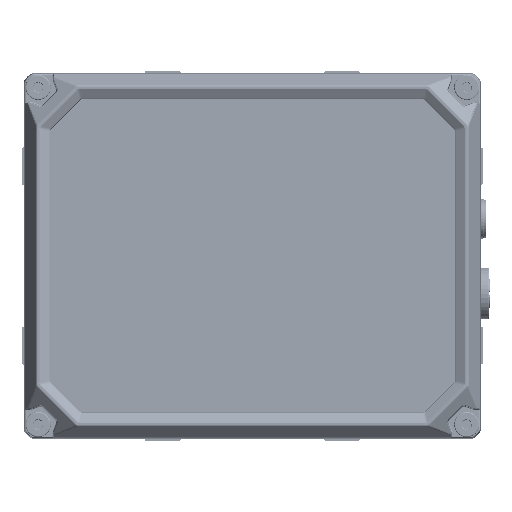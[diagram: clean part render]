
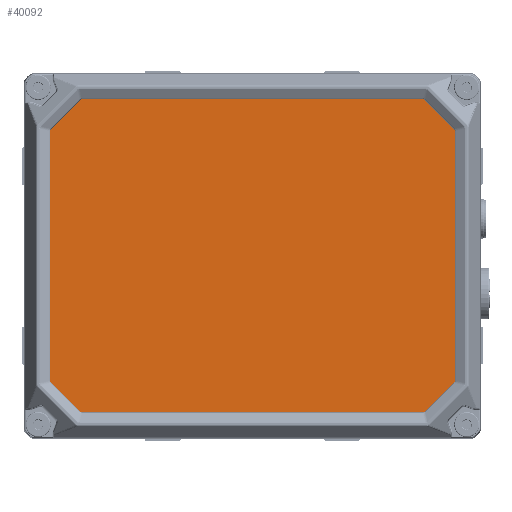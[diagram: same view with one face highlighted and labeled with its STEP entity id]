
A CAD part, top view. The second image highlights one B-rep face of the part: STEP entity #40092.
In plain terms, the highlighted planar face has unit normal (0, 0, 1).
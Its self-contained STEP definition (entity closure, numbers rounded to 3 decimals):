
#34364=FACE_OUTER_BOUND('',#50472,.T.);
#40092=ADVANCED_FACE('',(#34364),#44580,.F.);
#44580=PLANE('',#118722);
#45687=ELLIPSE('',#118714,1.001,1.);
#45688=ELLIPSE('',#118715,1.001,1.);
#45689=ELLIPSE('',#118716,1.001,1.);
#45690=ELLIPSE('',#118717,1.001,1.);
#45691=ELLIPSE('',#118718,1.001,1.);
#45692=ELLIPSE('',#118719,1.001,1.);
#45693=ELLIPSE('',#118720,1.001,1.);
#45694=ELLIPSE('',#118721,1.001,1.);
#50472=EDGE_LOOP('',(#67845,#67846,#67847,#67848,#67849,#67850,#67851,#67852,
#67853,#67854,#67855,#67856,#67857,#67858,#67859,#67860));
#67845=ORIENTED_EDGE('',*,*,#96909,.T.);
#67846=ORIENTED_EDGE('',*,*,#96910,.T.);
#67847=ORIENTED_EDGE('',*,*,#96911,.T.);
#67848=ORIENTED_EDGE('',*,*,#96912,.T.);
#67849=ORIENTED_EDGE('',*,*,#96913,.T.);
#67850=ORIENTED_EDGE('',*,*,#96914,.T.);
#67851=ORIENTED_EDGE('',*,*,#96915,.T.);
#67852=ORIENTED_EDGE('',*,*,#96916,.T.);
#67853=ORIENTED_EDGE('',*,*,#96917,.T.);
#67854=ORIENTED_EDGE('',*,*,#96918,.T.);
#67855=ORIENTED_EDGE('',*,*,#96919,.T.);
#67856=ORIENTED_EDGE('',*,*,#96920,.T.);
#67857=ORIENTED_EDGE('',*,*,#96921,.T.);
#67858=ORIENTED_EDGE('',*,*,#96922,.T.);
#67859=ORIENTED_EDGE('',*,*,#96923,.T.);
#67860=ORIENTED_EDGE('',*,*,#96924,.T.);
#86853=VERTEX_POINT('',#184534);
#86854=VERTEX_POINT('',#184535);
#86855=VERTEX_POINT('',#184537);
#86856=VERTEX_POINT('',#184539);
#86857=VERTEX_POINT('',#184541);
#86858=VERTEX_POINT('',#184543);
#86859=VERTEX_POINT('',#184545);
#86860=VERTEX_POINT('',#184547);
#86861=VERTEX_POINT('',#184549);
#86862=VERTEX_POINT('',#184551);
#86863=VERTEX_POINT('',#184553);
#86864=VERTEX_POINT('',#184555);
#86865=VERTEX_POINT('',#184557);
#86866=VERTEX_POINT('',#184559);
#86867=VERTEX_POINT('',#184561);
#86868=VERTEX_POINT('',#184563);
#96909=EDGE_CURVE('',#86853,#86854,#107168,.T.);
#96910=EDGE_CURVE('',#86854,#86855,#45687,.T.);
#96911=EDGE_CURVE('',#86855,#86856,#107169,.T.);
#96912=EDGE_CURVE('',#86856,#86857,#45688,.T.);
#96913=EDGE_CURVE('',#86857,#86858,#107170,.T.);
#96914=EDGE_CURVE('',#86858,#86859,#45689,.T.);
#96915=EDGE_CURVE('',#86859,#86860,#107171,.T.);
#96916=EDGE_CURVE('',#86860,#86861,#45690,.T.);
#96917=EDGE_CURVE('',#86861,#86862,#107172,.T.);
#96918=EDGE_CURVE('',#86862,#86863,#45691,.T.);
#96919=EDGE_CURVE('',#86863,#86864,#107173,.T.);
#96920=EDGE_CURVE('',#86864,#86865,#45692,.T.);
#96921=EDGE_CURVE('',#86865,#86866,#107174,.T.);
#96922=EDGE_CURVE('',#86866,#86867,#45693,.T.);
#96923=EDGE_CURVE('',#86867,#86868,#107175,.T.);
#96924=EDGE_CURVE('',#86868,#86853,#45694,.T.);
#107168=LINE('',#184533,#112314);
#107169=LINE('',#184538,#112315);
#107170=LINE('',#184542,#112316);
#107171=LINE('',#184546,#112317);
#107172=LINE('',#184550,#112318);
#107173=LINE('',#184554,#112319);
#107174=LINE('',#184558,#112320);
#107175=LINE('',#184562,#112321);
#112314=VECTOR('',#134865,1.);
#112315=VECTOR('',#134868,1.);
#112316=VECTOR('',#134871,1.);
#112317=VECTOR('',#134874,1.);
#112318=VECTOR('',#134877,1.);
#112319=VECTOR('',#134880,1.);
#112320=VECTOR('',#134883,1.);
#112321=VECTOR('',#134886,1.);
#118714=AXIS2_PLACEMENT_3D('',#184536,#134866,#134867);
#118715=AXIS2_PLACEMENT_3D('',#184540,#134869,#134870);
#118716=AXIS2_PLACEMENT_3D('',#184544,#134872,#134873);
#118717=AXIS2_PLACEMENT_3D('',#184548,#134875,#134876);
#118718=AXIS2_PLACEMENT_3D('',#184552,#134878,#134879);
#118719=AXIS2_PLACEMENT_3D('',#184556,#134881,#134882);
#118720=AXIS2_PLACEMENT_3D('',#184560,#134884,#134885);
#118721=AXIS2_PLACEMENT_3D('',#184564,#134887,#134888);
#118722=AXIS2_PLACEMENT_3D('',#184565,#134889,#134890);
#134865=DIRECTION('',(-0.707,0.707,0.));
#134866=DIRECTION('',(0.,0.,1.));
#134867=DIRECTION('',(0.383,0.924,0.));
#134868=DIRECTION('',(-1.,0.,0.));
#134869=DIRECTION('',(0.,0.,1.));
#134870=DIRECTION('',(-0.383,0.924,0.));
#134871=DIRECTION('',(-0.707,-0.707,0.));
#134872=DIRECTION('',(0.,0.,1.));
#134873=DIRECTION('',(-0.924,0.383,0.));
#134874=DIRECTION('',(0.,-1.,0.));
#134875=DIRECTION('',(0.,0.,1.));
#134876=DIRECTION('',(-0.924,-0.383,0.));
#134877=DIRECTION('',(0.707,-0.707,0.));
#134878=DIRECTION('',(0.,0.,1.));
#134879=DIRECTION('',(-0.383,-0.924,0.));
#134880=DIRECTION('',(1.,0.,0.));
#134881=DIRECTION('',(0.,0.,1.));
#134882=DIRECTION('',(0.383,-0.924,0.));
#134883=DIRECTION('',(0.707,0.707,0.));
#134884=DIRECTION('',(0.,0.,1.));
#134885=DIRECTION('',(0.924,-0.383,0.));
#134886=DIRECTION('',(0.,1.,0.));
#134887=DIRECTION('',(0.,0.,1.));
#134888=DIRECTION('',(0.924,0.383,0.));
#134889=DIRECTION('',(0.,0.,-1.));
#134890=DIRECTION('',(0.,-1.,0.));
#184533=CARTESIAN_POINT('',(46.96,42.8,70.5));
#184534=CARTESIAN_POINT('',(55.007,34.753,70.5));
#184535=CARTESIAN_POINT('',(47.253,42.507,70.5));
#184536=CARTESIAN_POINT('',(46.546,41.799,70.5));
#184537=CARTESIAN_POINT('',(46.546,42.8,70.5));
#184538=CARTESIAN_POINT('',(-46.96,42.8,70.5));
#184539=CARTESIAN_POINT('',(-46.546,42.8,70.5));
#184540=CARTESIAN_POINT('',(-46.546,41.799,70.5));
#184541=CARTESIAN_POINT('',(-47.253,42.507,70.5));
#184542=CARTESIAN_POINT('',(-55.3,34.46,70.5));
#184543=CARTESIAN_POINT('',(-55.007,34.753,70.5));
#184544=CARTESIAN_POINT('',(-54.299,34.046,70.5));
#184545=CARTESIAN_POINT('',(-55.3,34.046,70.5));
#184546=CARTESIAN_POINT('',(-55.3,-34.46,70.5));
#184547=CARTESIAN_POINT('',(-55.3,-34.046,70.5));
#184548=CARTESIAN_POINT('',(-54.299,-34.046,70.5));
#184549=CARTESIAN_POINT('',(-55.007,-34.753,70.5));
#184550=CARTESIAN_POINT('',(-46.96,-42.8,70.5));
#184551=CARTESIAN_POINT('',(-47.253,-42.507,70.5));
#184552=CARTESIAN_POINT('',(-46.546,-41.799,70.5));
#184553=CARTESIAN_POINT('',(-46.546,-42.8,70.5));
#184554=CARTESIAN_POINT('',(46.96,-42.8,70.5));
#184555=CARTESIAN_POINT('',(46.546,-42.8,70.5));
#184556=CARTESIAN_POINT('',(46.546,-41.799,70.5));
#184557=CARTESIAN_POINT('',(47.253,-42.507,70.5));
#184558=CARTESIAN_POINT('',(55.3,-34.46,70.5));
#184559=CARTESIAN_POINT('',(55.007,-34.753,70.5));
#184560=CARTESIAN_POINT('',(54.299,-34.046,70.5));
#184561=CARTESIAN_POINT('',(55.3,-34.046,70.5));
#184562=CARTESIAN_POINT('',(55.3,34.46,70.5));
#184563=CARTESIAN_POINT('',(55.3,34.046,70.5));
#184564=CARTESIAN_POINT('',(54.299,34.046,70.5));
#184565=CARTESIAN_POINT('',(-46.747,-42.285,70.5));
